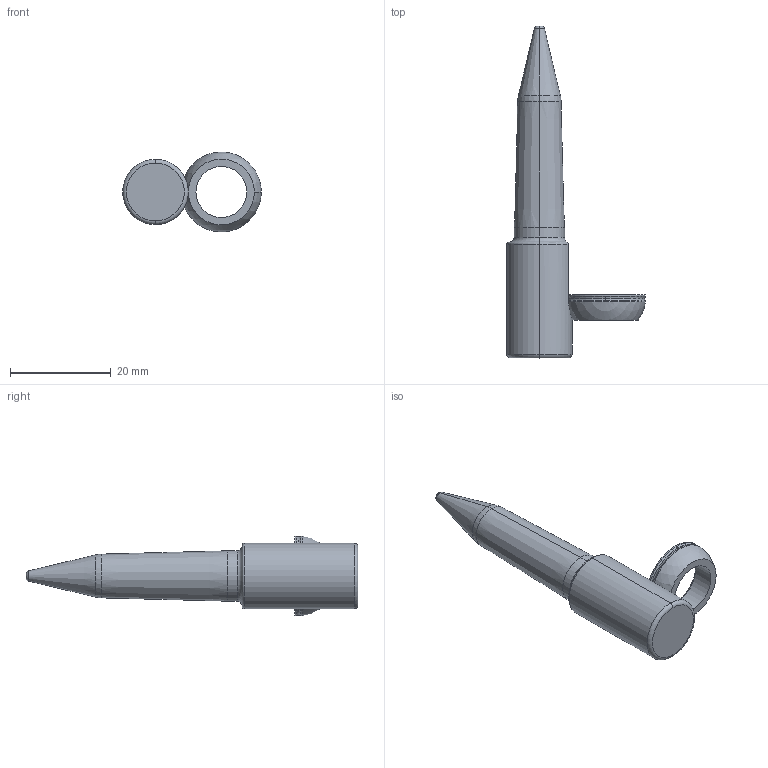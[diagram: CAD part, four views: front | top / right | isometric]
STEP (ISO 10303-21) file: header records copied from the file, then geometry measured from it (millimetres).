
FILE_DESCRIPTION (( 'STEP AP214' ), '1' );
FILE_NAME ('PA-T-10mm-1.9mm-25mm-3-A-F1.STEP', '2019-05-08T17:57:16', ( '' ), ( '' ), 'SwSTEP 2.0', 'SolidWorks 2017', '' );
FILE_SCHEMA (( 'AUTOMOTIVE_DESIGN' ));
Length unit declared in the file: inch
Products named in the file (3): SLRadiusWasher_RadiusWasher-M; PA-T-10mm-1.9mm-25mm-3-A-F1; SLPilot-PA-T-M_PA-T-10-1.9-25-3-A-F1
Assembly tree (2 placements, depth 2):
  PA-T-10mm-1.9mm-25mm-3-A-F1
    SLRadiusWasher_RadiusWasher-M
    SLPilot-PA-T-M_PA-T-10-1.9-25-3-A-F1
Bounding box: 27.54 x 65.9 x 15.88 mm (x, y, z)
Volume: 5788.4 mm3; surface area: 2744 mm2
Topology: 2 solids, 2 shells, 41 faces, 89 edges, 52 vertices
Faces by surface type: torus 15, cylinder 11, cone 6, plane 5, sphere 4
Entity records: 1318 total; most frequent: CARTESIAN_POINT 254, DIRECTION 242, ORIENTED_EDGE 178, AXIS2_PLACEMENT_3D 112, EDGE_CURVE 89, CIRCLE 66, VERTEX_POINT 52, EDGE_LOOP 43
